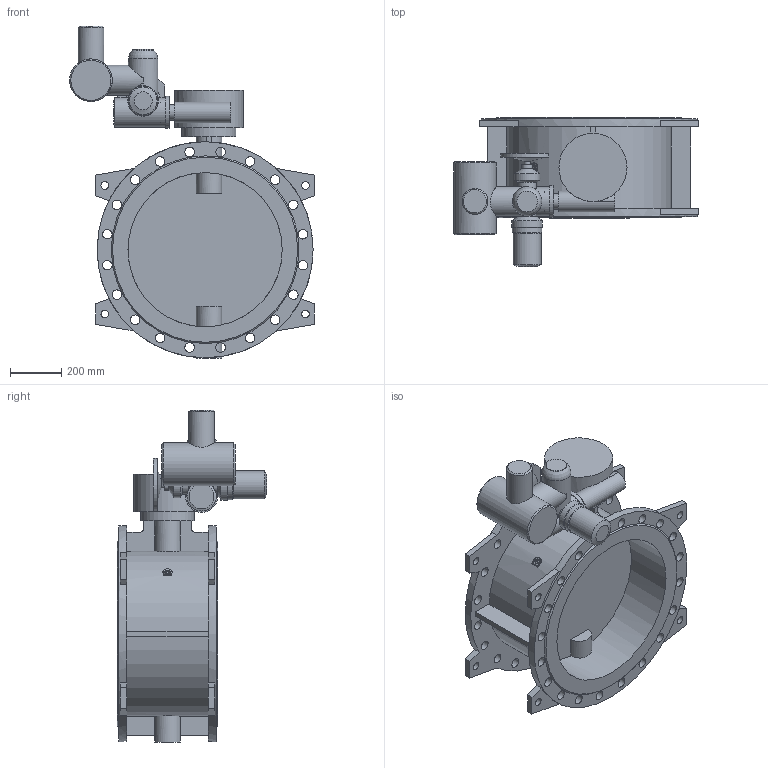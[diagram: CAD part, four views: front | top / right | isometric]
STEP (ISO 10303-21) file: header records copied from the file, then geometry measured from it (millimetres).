
FILE_DESCRIPTION(('STEP AP203'), '1');
FILE_NAME('Çàòâîð 023F.Z DN600 PN16 + ðåäóêòîð + ÌÒ903.À07 ñ ÁÓ', '', ('UNSPECIFIED'), ('UNSPECIFIED'), 'ASCON STEP Converter 1.6', 'ASCON Math Kernel', '');
FILE_SCHEMA(('CONFIG_CONTROL_DESIGN'));
Length unit declared in the file: millimetre
Bounding box: 952 x 580.5 x 1291 mm (x, y, z)
Volume: 75347460 mm3; surface area: 4350531.6 mm2
Topology: 1 solids, 1 shells, 236 faces, 580 edges, 382 vertices
Faces by surface type: plane 111, cylinder 111, cone 13, torus 1
Full cylindrical faces by diameter (mm): 8.5 x4, 12 x4, 18.5 x4, 23 x4, 24 x1, 30 x8, 37 x40, 42 x1, 60 x1, 66 x1, 72 x1, 80 x2, 100 x3, 108 x1, 114 x2, 115 x1, 116 x1, 119 x1, 125 x1, 166 x1, 210 x1, 265 x1, 600 x2, 840 x2
Entity records: 10734 total; most frequent: CARTESIAN_POINT 3331, DIRECTION 1139, ORIENTED_EDGE 948, AXIS2_PLACEMENT_3D 474, EDGE_CURVE 474, EDGE_LOOP 471, VERTEX_POINT 381, FACE_BOUND 280
